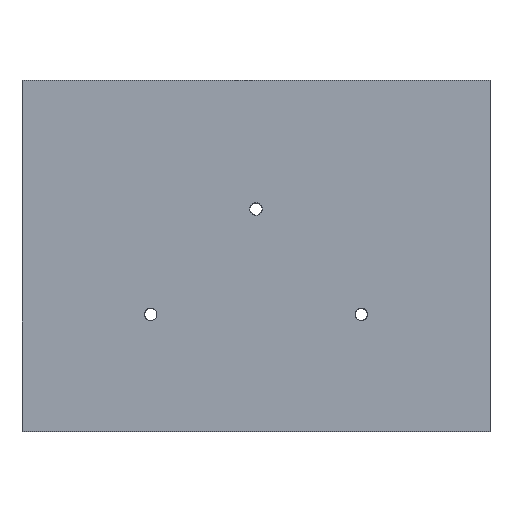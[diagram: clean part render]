
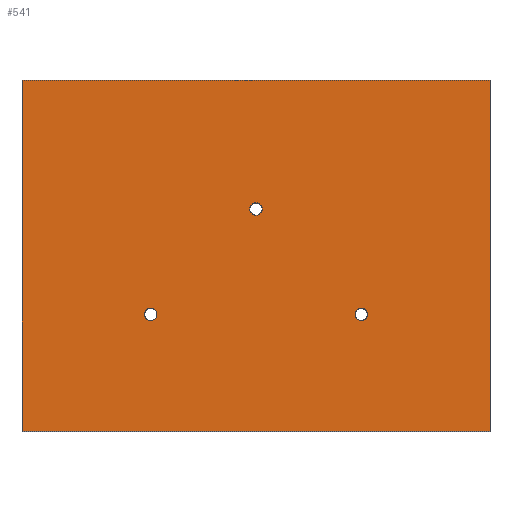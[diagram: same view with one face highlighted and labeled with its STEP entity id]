
A CAD part, top view. The second image highlights one B-rep face of the part: STEP entity #541.
In plain terms, the highlighted planar face has unit normal (0, 0, 1).
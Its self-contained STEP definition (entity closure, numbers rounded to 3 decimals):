
#11 = VERTEX_POINT ( 'NONE', #1412 ) ;
#29 = EDGE_LOOP ( 'NONE', ( #1332, #285 ) ) ;
#60 = DIRECTION ( 'NONE',  ( 0., 1., 0. ) ) ;
#72 = FACE_BOUND ( 'NONE', #1353, .T. ) ;
#93 = DIRECTION ( 'NONE',  ( 0., 0., 1. ) ) ;
#97 = DIRECTION ( 'NONE',  ( 1., 0., 0. ) ) ;
#105 = VERTEX_POINT ( 'NONE', #1319 ) ;
#161 = AXIS2_PLACEMENT_3D ( 'NONE', #353, #475, #1123 ) ;
#191 = DIRECTION ( 'NONE',  ( 0., -1., 0. ) ) ;
#233 = EDGE_CURVE ( 'NONE', #460, #894, #696, .T. ) ;
#238 = AXIS2_PLACEMENT_3D ( 'NONE', #331, #581, #610 ) ;
#254 = EDGE_CURVE ( 'NONE', #11, #346, #1623, .T. ) ;
#269 = EDGE_CURVE ( 'NONE', #1375, #105, #629, .T. ) ;
#272 = AXIS2_PLACEMENT_3D ( 'NONE', #1297, #1176, #1165 ) ;
#285 = ORIENTED_EDGE ( 'NONE', *, *, #1047, .F. ) ;
#300 = CARTESIAN_POINT ( 'NONE',  ( -16.1, -9.5, 17.5 ) ) ;
#313 = DIRECTION ( 'NONE',  ( 1., 0., 0. ) ) ;
#326 = ORIENTED_EDGE ( 'NONE', *, *, #233, .T. ) ;
#331 = CARTESIAN_POINT ( 'NONE',  ( 0., 7.6, 17.5 ) ) ;
#346 = VERTEX_POINT ( 'NONE', #1419 ) ;
#353 = CARTESIAN_POINT ( 'NONE',  ( 0., 7.6, 17.5 ) ) ;
#375 = VECTOR ( 'NONE', #191, 1000. ) ;
#401 = EDGE_CURVE ( 'NONE', #1662, #1692, #1533, .T. ) ;
#406 = CIRCLE ( 'NONE', #878, 1. ) ;
#419 = LINE ( 'NONE', #824, #1089 ) ;
#443 = CARTESIAN_POINT ( 'NONE',  ( 38., 28.5, 17.5 ) ) ;
#450 = ORIENTED_EDGE ( 'NONE', *, *, #269, .F. ) ;
#460 = VERTEX_POINT ( 'NONE', #537 ) ;
#475 = DIRECTION ( 'NONE',  ( 0., 0., 1. ) ) ;
#479 = FACE_BOUND ( 'NONE', #29, .T. ) ;
#494 = CIRCLE ( 'NONE', #272, 1. ) ;
#528 = VERTEX_POINT ( 'NONE', #1371 ) ;
#537 = CARTESIAN_POINT ( 'NONE',  ( 38., -28.5, 17.5 ) ) ;
#541 = ADVANCED_FACE ( 'NONE', ( #72, #479, #619, #1518 ), #1670, .T. ) ;
#581 = DIRECTION ( 'NONE',  ( 0., 0., 1. ) ) ;
#597 = CIRCLE ( 'NONE', #1563, 1. ) ;
#606 = VERTEX_POINT ( 'NONE', #1172 ) ;
#610 = DIRECTION ( 'NONE',  ( 1., 0., 0. ) ) ;
#615 = ORIENTED_EDGE ( 'NONE', *, *, #401, .F. ) ;
#619 = FACE_BOUND ( 'NONE', #1435, .T. ) ;
#629 = CIRCLE ( 'NONE', #764, 1. ) ;
#643 = ORIENTED_EDGE ( 'NONE', *, *, #254, .T. ) ;
#669 = DIRECTION ( 'NONE',  ( -1., 0., 0. ) ) ;
#678 = VECTOR ( 'NONE', #60, 1000. ) ;
#695 = CARTESIAN_POINT ( 'NONE',  ( -38., -28.5, 17.5 ) ) ;
#696 = LINE ( 'NONE', #1373, #678 ) ;
#764 = AXIS2_PLACEMENT_3D ( 'NONE', #1676, #767, #905 ) ;
#767 = DIRECTION ( 'NONE',  ( 0., 0., 1. ) ) ;
#776 = ORIENTED_EDGE ( 'NONE', *, *, #1530, .F. ) ;
#824 = CARTESIAN_POINT ( 'NONE',  ( -38., 28.5, 17.5 ) ) ;
#878 = AXIS2_PLACEMENT_3D ( 'NONE', #1686, #1022, #97 ) ;
#882 = EDGE_CURVE ( 'NONE', #528, #606, #597, .T. ) ;
#894 = VERTEX_POINT ( 'NONE', #443 ) ;
#905 = DIRECTION ( 'NONE',  ( 1., 0., 0. ) ) ;
#1022 = DIRECTION ( 'NONE',  ( 0., 0., 1. ) ) ;
#1047 = EDGE_CURVE ( 'NONE', #606, #528, #406, .T. ) ;
#1051 = CARTESIAN_POINT ( 'NONE',  ( 1., 7.6, 17.5 ) ) ;
#1071 = LINE ( 'NONE', #695, #1477 ) ;
#1080 = EDGE_LOOP ( 'NONE', ( #643, #1687, #326, #1580 ) ) ;
#1089 = VECTOR ( 'NONE', #669, 1000. ) ;
#1123 = DIRECTION ( 'NONE',  ( 1., 0., 0. ) ) ;
#1165 = DIRECTION ( 'NONE',  ( 1., 0., 0. ) ) ;
#1172 = CARTESIAN_POINT ( 'NONE',  ( 16.1, -9.5, 17.5 ) ) ;
#1176 = DIRECTION ( 'NONE',  ( 0., 0., 1. ) ) ;
#1203 = ORIENTED_EDGE ( 'NONE', *, *, #1232, .F. ) ;
#1232 = EDGE_CURVE ( 'NONE', #105, #1375, #494, .T. ) ;
#1259 = CIRCLE ( 'NONE', #238, 1. ) ;
#1261 = CARTESIAN_POINT ( 'NONE',  ( 0., 0., 17.5 ) ) ;
#1297 = CARTESIAN_POINT ( 'NONE',  ( -17.1, -9.5, 17.5 ) ) ;
#1319 = CARTESIAN_POINT ( 'NONE',  ( -18.1, -9.5, 17.5 ) ) ;
#1332 = ORIENTED_EDGE ( 'NONE', *, *, #882, .F. ) ;
#1353 = EDGE_LOOP ( 'NONE', ( #776, #615 ) ) ;
#1358 = CARTESIAN_POINT ( 'NONE',  ( 17.1, -9.5, 17.5 ) ) ;
#1371 = CARTESIAN_POINT ( 'NONE',  ( 18.1, -9.5, 17.5 ) ) ;
#1373 = CARTESIAN_POINT ( 'NONE',  ( 38., 28.5, 17.5 ) ) ;
#1375 = VERTEX_POINT ( 'NONE', #300 ) ;
#1388 = EDGE_CURVE ( 'NONE', #894, #11, #419, .T. ) ;
#1394 = DIRECTION ( 'NONE',  ( 0., 0., 1. ) ) ;
#1402 = EDGE_CURVE ( 'NONE', #346, #460, #1071, .T. ) ;
#1412 = CARTESIAN_POINT ( 'NONE',  ( -38., 28.5, 17.5 ) ) ;
#1419 = CARTESIAN_POINT ( 'NONE',  ( -38., -28.5, 17.5 ) ) ;
#1435 = EDGE_LOOP ( 'NONE', ( #450, #1203 ) ) ;
#1477 = VECTOR ( 'NONE', #1610, 1000. ) ;
#1496 = DIRECTION ( 'NONE',  ( 1., 0., 0. ) ) ;
#1518 = FACE_OUTER_BOUND ( 'NONE', #1080, .T. ) ;
#1530 = EDGE_CURVE ( 'NONE', #1692, #1662, #1259, .T. ) ;
#1533 = CIRCLE ( 'NONE', #161, 1. ) ;
#1563 = AXIS2_PLACEMENT_3D ( 'NONE', #1358, #1394, #1496 ) ;
#1580 = ORIENTED_EDGE ( 'NONE', *, *, #1388, .T. ) ;
#1597 = CARTESIAN_POINT ( 'NONE',  ( -1., 7.6, 17.5 ) ) ;
#1610 = DIRECTION ( 'NONE',  ( 1., 0., 0. ) ) ;
#1620 = AXIS2_PLACEMENT_3D ( 'NONE', #1261, #93, #313 ) ;
#1623 = LINE ( 'NONE', #1648, #375 ) ;
#1648 = CARTESIAN_POINT ( 'NONE',  ( -38., 28.5, 17.5 ) ) ;
#1662 = VERTEX_POINT ( 'NONE', #1597 ) ;
#1670 = PLANE ( 'NONE',  #1620 ) ;
#1676 = CARTESIAN_POINT ( 'NONE',  ( -17.1, -9.5, 17.5 ) ) ;
#1686 = CARTESIAN_POINT ( 'NONE',  ( 17.1, -9.5, 17.5 ) ) ;
#1687 = ORIENTED_EDGE ( 'NONE', *, *, #1402, .T. ) ;
#1692 = VERTEX_POINT ( 'NONE', #1051 ) ;
